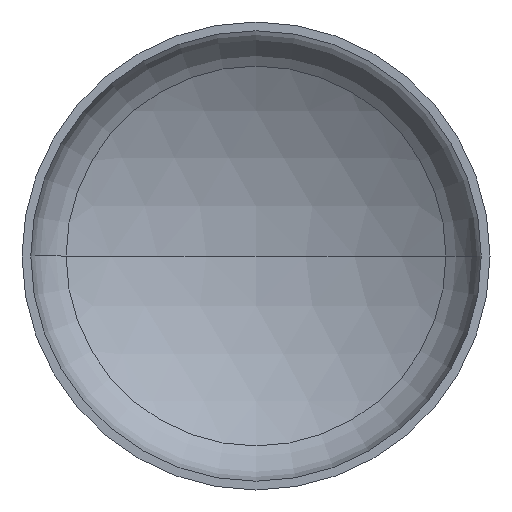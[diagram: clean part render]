
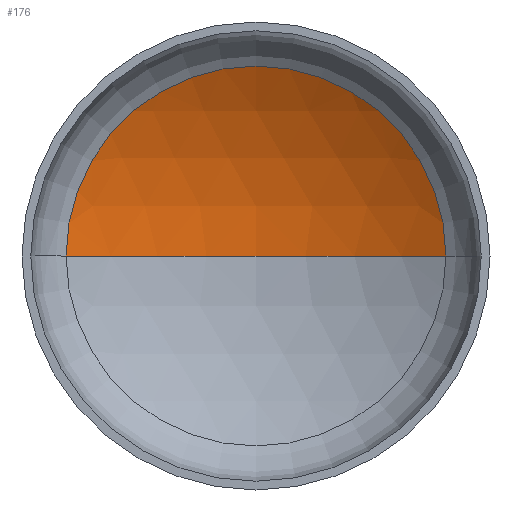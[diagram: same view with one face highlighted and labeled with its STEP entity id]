
A CAD part, front view. The second image highlights one B-rep face of the part: STEP entity #176.
In plain terms, the highlighted spherical face has radius 2560 mm.
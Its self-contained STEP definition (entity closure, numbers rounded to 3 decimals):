
#6 = EDGE_LOOP ( 'NONE', ( #391, #121, #84 ) ) ;
#15 = DIRECTION ( 'NONE',  ( -1., 0., 0. ) ) ;
#42 = AXIS2_PLACEMENT_3D ( 'NONE', #89, #190, #191 ) ;
#46 = AXIS2_PLACEMENT_3D ( 'NONE', #262, #261, #187 ) ;
#59 = DIRECTION ( 'NONE',  ( 0., 0., -1. ) ) ;
#64 = AXIS2_PLACEMENT_3D ( 'NONE', #65, #59, #15 ) ;
#65 = CARTESIAN_POINT ( 'NONE',  ( 0., -1663.928, 0. ) ) ;
#67 = AXIS2_PLACEMENT_3D ( 'NONE', #310, #226, #204 ) ;
#84 = ORIENTED_EDGE ( 'NONE', *, *, #234, .T. ) ;
#88 = VERTEX_POINT ( 'NONE', #301 ) ;
#89 = CARTESIAN_POINT ( 'NONE',  ( 0., -1663.928, 0. ) ) ;
#92 = VERTEX_POINT ( 'NONE', #306 ) ;
#121 = ORIENTED_EDGE ( 'NONE', *, *, #243, .T. ) ;
#145 = VERTEX_POINT ( 'NONE', #317 ) ;
#176 = ADVANCED_FACE ( 'NONE', ( #386 ), #321, .F. ) ;
#187 = DIRECTION ( 'NONE',  ( 1., 0., 0. ) ) ;
#190 = DIRECTION ( 'NONE',  ( 0., 0., 1. ) ) ;
#191 = DIRECTION ( 'NONE',  ( 1., 0., 0. ) ) ;
#204 = DIRECTION ( 'NONE',  ( -1., 0., 0. ) ) ;
#226 = DIRECTION ( 'NONE',  ( 0., 0., -1. ) ) ;
#234 = EDGE_CURVE ( 'NONE', #145, #92, #371, .T. ) ;
#243 = EDGE_CURVE ( 'NONE', #88, #145, #380, .T. ) ;
#254 = EDGE_CURVE ( 'NONE', #88, #92, #316, .T. ) ;
#261 = DIRECTION ( 'NONE',  ( 0., -1., 0. ) ) ;
#262 = CARTESIAN_POINT ( 'NONE',  ( 0., 542.283, 0. ) ) ;
#301 = CARTESIAN_POINT ( 'NONE',  ( 0., 896.072, 0. ) ) ;
#306 = CARTESIAN_POINT ( 'NONE',  ( -1298.551, 542.283, 0. ) ) ;
#310 = CARTESIAN_POINT ( 'NONE',  ( 0., -1663.928, 0. ) ) ;
#316 = CIRCLE ( 'NONE', #42, 2560. ) ;
#317 = CARTESIAN_POINT ( 'NONE',  ( 1298.551, 542.283, 0. ) ) ;
#321 = SPHERICAL_SURFACE ( 'NONE', #67, 2560. ) ;
#371 = CIRCLE ( 'NONE', #46, 1298.551 ) ;
#380 = CIRCLE ( 'NONE', #64, 2560. ) ;
#386 = FACE_OUTER_BOUND ( 'NONE', #6, .T. ) ;
#391 = ORIENTED_EDGE ( 'NONE', *, *, #254, .F. ) ;
